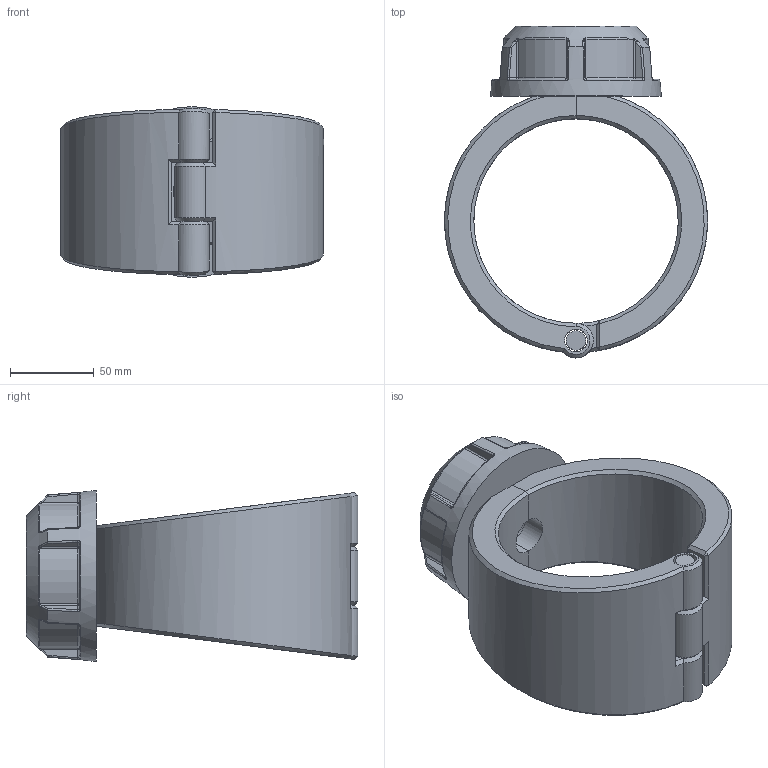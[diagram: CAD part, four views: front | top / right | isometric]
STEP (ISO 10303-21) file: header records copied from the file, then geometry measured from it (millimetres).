
FILE_DESCRIPTION(/* description */ ('Plassadle Threaded 122x1 1/2'''''),/* implementation_level */ '2;1');
FILE_NAME(/* name */ 'C:\Users\comp2\Dropbox\99-16-3568-Processing\Mechanical Fittings\16300\stp\163000122015.stp',/* time_stamp */ '2022-02-03T11:50:23+00:00',/* author */ ('comp2'),/* organization */ (''),/* preprocessor_version */ 'ST-DEVELOPER v17.2',/* originating_system */ 'Autodesk Inventor 2019',/* authorisation */ '');
FILE_SCHEMA (('AUTOMOTIVE_DESIGN { 1 0 10303 214 3 1 1 }'));
Length unit declared in the file: millimetre
Products named in the file (1): 163000122015
Bounding box: 156.98 x 198 x 102 mm (x, y, z)
Volume: 793111.1 mm3; surface area: 126153.2 mm2
Topology: 4 solids, 4 shells, 203 faces, 486 edges, 293 vertices
Faces by surface type: bspline 58, plane 53, cylinder 47, torus 18, cone 15, sphere 12
Full cylindrical faces by diameter (mm): 11.64 x1, 13.64 x3, 22.422 x1, 38.118 x1, 44.845 x1, 67.267 x1
Entity records: 8205 total; most frequent: CARTESIAN_POINT 3858, ORIENTED_EDGE 972, DIRECTION 781, EDGE_CURVE 486, AXIS2_PLACEMENT_3D 330, VERTEX_POINT 293, EDGE_LOOP 213, FACE_OUTER_BOUND 203
